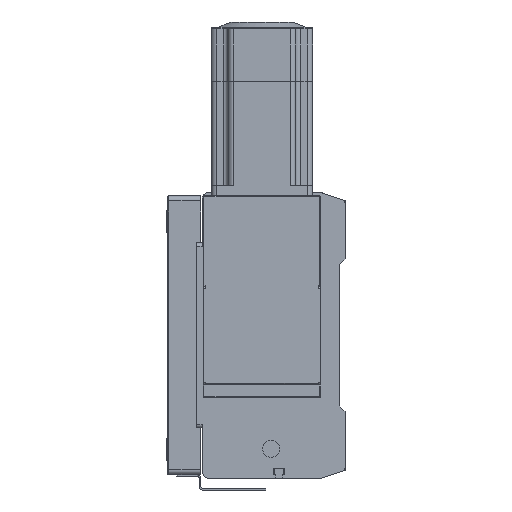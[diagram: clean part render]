
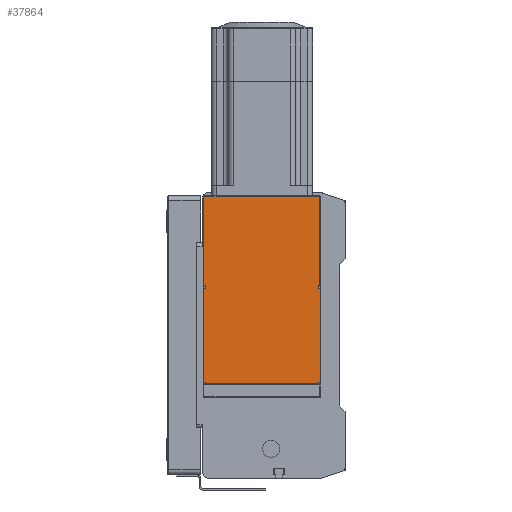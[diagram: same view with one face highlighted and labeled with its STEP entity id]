
A CAD part, left-side view. The second image highlights one B-rep face of the part: STEP entity #37864.
In plain terms, the highlighted planar face has unit normal (-1, 0, 0).
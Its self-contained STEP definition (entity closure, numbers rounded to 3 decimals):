
#25139=DIRECTION('',(0.,1.,0.));
#25140=VECTOR('',#25139,69.);
#25141=CARTESIAN_POINT('',(-333.5,15.5,82.5));
#25142=LINE('',#25141,#25140);
#25187=DIRECTION('',(0.,-1.,0.));
#25188=VECTOR('',#25187,1.);
#25189=CARTESIAN_POINT('',(-333.5,16.5,29.4));
#25190=LINE('',#25189,#25188);
#25381=DIRECTION('',(0.,0.,-1.));
#25382=VECTOR('',#25381,56.);
#25383=CARTESIAN_POINT('',(-333.5,85.,28.));
#25384=LINE('',#25383,#25382);
#25471=DIRECTION('',(0.,0.,-1.));
#25472=VECTOR('',#25471,1.4);
#25473=CARTESIAN_POINT('',(-333.5,83.5,29.4));
#25474=LINE('',#25473,#25472);
#25489=DIRECTION('',(0.,1.,0.));
#25490=VECTOR('',#25489,1.);
#25491=CARTESIAN_POINT('',(-333.5,83.5,29.4));
#25492=LINE('',#25491,#25490);
#25493=DIRECTION('',(0.,0.,-1.));
#25494=VECTOR('',#25493,1.4);
#25495=CARTESIAN_POINT('',(-333.5,16.5,29.4));
#25496=LINE('',#25495,#25494);
#25497=DIRECTION('',(0.,0.,-1.));
#25498=VECTOR('',#25497,56.);
#25499=CARTESIAN_POINT('',(-333.5,15.,28.));
#25500=LINE('',#25499,#25498);
#25501=DIRECTION('',(0.,1.,0.));
#25502=VECTOR('',#25501,1.5);
#25503=CARTESIAN_POINT('',(-333.5,15.,-28.));
#25504=LINE('',#25503,#25502);
#25505=DIRECTION('',(0.,0.,-1.));
#25506=VECTOR('',#25505,0.5);
#25507=CARTESIAN_POINT('',(-333.5,16.5,-28.));
#25508=LINE('',#25507,#25506);
#25514=DIRECTION('',(0.,0.,-1.));
#25515=VECTOR('',#25514,0.5);
#25516=CARTESIAN_POINT('',(-333.5,83.5,-28.));
#25517=LINE('',#25516,#25515);
#25530=DIRECTION('',(0.,-1.,0.));
#25531=VECTOR('',#25530,1.5);
#25532=CARTESIAN_POINT('',(-333.5,85.,-28.));
#25533=LINE('',#25532,#25531);
#25554=DIRECTION('',(0.,-1.,0.));
#25555=VECTOR('',#25554,67.);
#25556=CARTESIAN_POINT('',(-333.5,83.5,-28.5));
#25557=LINE('',#25556,#25555);
#26665=DIRECTION('',(0.,1.,0.));
#26666=VECTOR('',#26665,1.5);
#26667=CARTESIAN_POINT('',(-333.5,83.5,28.));
#26668=LINE('',#26667,#26666);
#26689=DIRECTION('',(0.,0.,-1.));
#26690=VECTOR('',#26689,53.1);
#26691=CARTESIAN_POINT('',(-333.5,84.5,82.5));
#26692=LINE('',#26691,#26690);
#26693=DIRECTION('',(0.,0.,1.));
#26694=VECTOR('',#26693,53.1);
#26695=CARTESIAN_POINT('',(-333.5,15.5,29.4));
#26696=LINE('',#26695,#26694);
#26833=DIRECTION('',(0.,1.,0.));
#26834=VECTOR('',#26833,1.5);
#26835=CARTESIAN_POINT('',(-333.5,15.,28.));
#26836=LINE('',#26835,#26834);
#31049=CARTESIAN_POINT('',(-333.5,84.5,29.4));
#31050=VERTEX_POINT('',#31049);
#31051=CARTESIAN_POINT('',(-333.5,83.5,29.4));
#31052=VERTEX_POINT('',#31051);
#31387=CARTESIAN_POINT('',(-333.5,16.5,-28.));
#31389=VERTEX_POINT('',#31387);
#31394=CARTESIAN_POINT('',(-333.5,16.5,-28.5));
#31396=VERTEX_POINT('',#31394);
#31443=CARTESIAN_POINT('',(-333.5,15.,-28.));
#31444=VERTEX_POINT('',#31443);
#31445=CARTESIAN_POINT('',(-333.5,15.,28.));
#31446=VERTEX_POINT('',#31445);
#31597=CARTESIAN_POINT('',(-333.5,83.5,28.));
#31598=CARTESIAN_POINT('',(-333.5,85.,28.));
#31599=VERTEX_POINT('',#31597);
#31600=VERTEX_POINT('',#31598);
#31601=CARTESIAN_POINT('',(-333.5,16.5,29.4));
#31602=CARTESIAN_POINT('',(-333.5,15.5,29.4));
#31603=VERTEX_POINT('',#31601);
#31604=VERTEX_POINT('',#31602);
#31605=CARTESIAN_POINT('',(-333.5,16.5,28.));
#31606=VERTEX_POINT('',#31605);
#31607=CARTESIAN_POINT('',(-333.5,83.5,-28.));
#31608=CARTESIAN_POINT('',(-333.5,83.5,-28.5));
#31609=VERTEX_POINT('',#31607);
#31610=VERTEX_POINT('',#31608);
#31619=CARTESIAN_POINT('',(-333.5,85.,-28.));
#31620=VERTEX_POINT('',#31619);
#32037=CARTESIAN_POINT('',(-333.5,84.5,82.5));
#32038=VERTEX_POINT('',#32037);
#32059=CARTESIAN_POINT('',(-333.5,15.5,82.5));
#32060=VERTEX_POINT('',#32059);
#37832=CARTESIAN_POINT('',(-333.5,50.,27.));
#37833=DIRECTION('',(1.,0.,0.));
#37834=DIRECTION('',(0.,0.,-1.));
#37835=AXIS2_PLACEMENT_3D('',#37832,#37833,#37834);
#37836=PLANE('',#37835);
#37838=ORIENTED_EDGE('',*,*,#37837,.F.);
#37840=ORIENTED_EDGE('',*,*,#37839,.F.);
#37841=ORIENTED_EDGE('',*,*,#37758,.F.);
#37843=ORIENTED_EDGE('',*,*,#37842,.F.);
#37844=ORIENTED_EDGE('',*,*,#37821,.F.);
#37845=ORIENTED_EDGE('',*,*,#37482,.T.);
#37847=ORIENTED_EDGE('',*,*,#37846,.F.);
#37848=ORIENTED_EDGE('',*,*,#37529,.F.);
#37850=ORIENTED_EDGE('',*,*,#37849,.F.);
#37851=ORIENTED_EDGE('',*,*,#37577,.F.);
#37852=ORIENTED_EDGE('',*,*,#37598,.T.);
#37854=ORIENTED_EDGE('',*,*,#37853,.F.);
#37855=ORIENTED_EDGE('',*,*,#37630,.T.);
#37857=ORIENTED_EDGE('',*,*,#37856,.T.);
#37859=ORIENTED_EDGE('',*,*,#37858,.T.);
#37861=ORIENTED_EDGE('',*,*,#37860,.F.);
#37862=EDGE_LOOP('',(#37838,#37840,#37841,#37843,#37844,#37845,#37847,#37848,
#37850,#37851,#37852,#37854,#37855,#37857,#37859,#37861));
#37863=FACE_OUTER_BOUND('',#37862,.F.);
#37482=EDGE_CURVE('',#31052,#31050,#25492,.T.);
#37529=EDGE_CURVE('',#32060,#32038,#25142,.T.);
#37577=EDGE_CURVE('',#31603,#31604,#25190,.T.);
#37598=EDGE_CURVE('',#31603,#31606,#25496,.T.);
#37630=EDGE_CURVE('',#31446,#31444,#25500,.T.);
#37758=EDGE_CURVE('',#31600,#31620,#25384,.T.);
#37821=EDGE_CURVE('',#31052,#31599,#25474,.T.);
#37837=EDGE_CURVE('',#31609,#31610,#25517,.T.);
#37839=EDGE_CURVE('',#31620,#31609,#25533,.T.);
#37842=EDGE_CURVE('',#31599,#31600,#26668,.T.);
#37846=EDGE_CURVE('',#32038,#31050,#26692,.T.);
#37849=EDGE_CURVE('',#31604,#32060,#26696,.T.);
#37853=EDGE_CURVE('',#31446,#31606,#26836,.T.);
#37856=EDGE_CURVE('',#31444,#31389,#25504,.T.);
#37858=EDGE_CURVE('',#31389,#31396,#25508,.T.);
#37860=EDGE_CURVE('',#31610,#31396,#25557,.T.);
#37864=ADVANCED_FACE('',(#37863),#37836,.F.);
